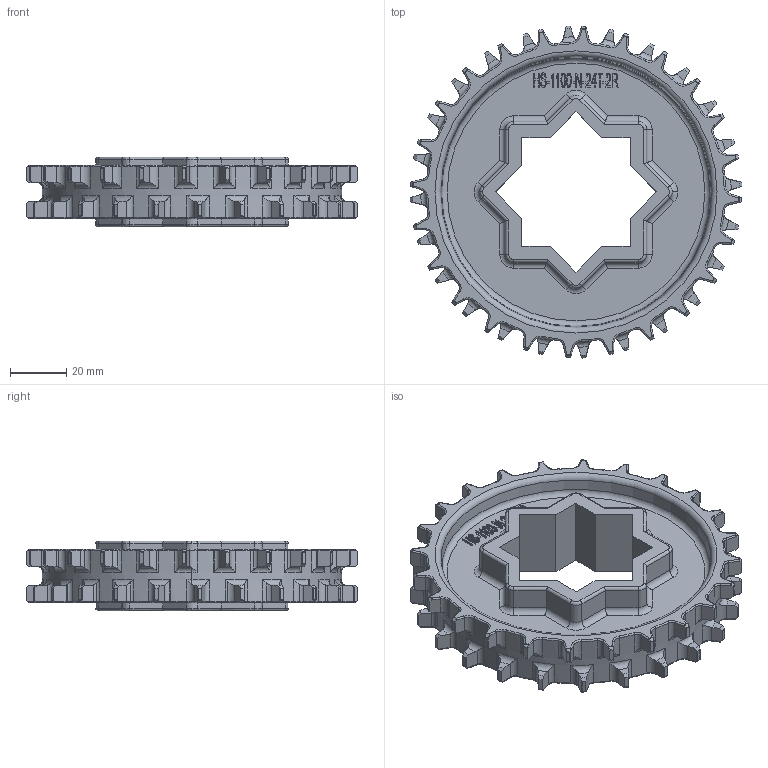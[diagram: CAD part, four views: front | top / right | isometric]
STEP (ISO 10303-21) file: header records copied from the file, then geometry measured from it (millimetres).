
FILE_DESCRIPTION(/* description */ (''),/* implementation_level */ '2;1');
FILE_NAME(/* name */ 'HS-1100-N-24T-2R.stp',/* time_stamp */ '2023-05-24T17:55:01+08:00',/* author */ (''),/* organization */ (''),/* preprocessor_version */ 'ST-DEVELOPER v15',/* originating_system */ 'SIEMENS PLM Software NX 8.5',/* authorisation */ '');
FILE_SCHEMA (('AP203_CONFIGURATION_CONTROLLED_3D_DESIGN_OF_MECHANICAL_PARTS_AND_ASSEMBLIES_MIM_LF { 1 0 10303 403 2 1 2}'));
Length unit declared in the file: millimetre
Products named in the file (1): Admi27D04DA4506a
Bounding box: 117.62 x 117.62 x 24.8 mm (x, y, z)
Volume: 81564.9 mm3; surface area: 36084.7 mm2
Topology: 1 solids, 1 shells, 1494 faces, 3680 edges, 2212 vertices
Faces by surface type: cylinder 454, torus 328, plane 303, bspline 188, cone 100, sphere 94, extrusion 27
Entity records: 57386 total; most frequent: CARTESIAN_POINT 18288, ORIENTED_EDGE 7352, DIRECTION 6932, EDGE_CURVE 3676, AXIS2_PLACEMENT_3D 2886, VERTEX_POINT 2212, CIRCLE 1574, EDGE_LOOP 1524
